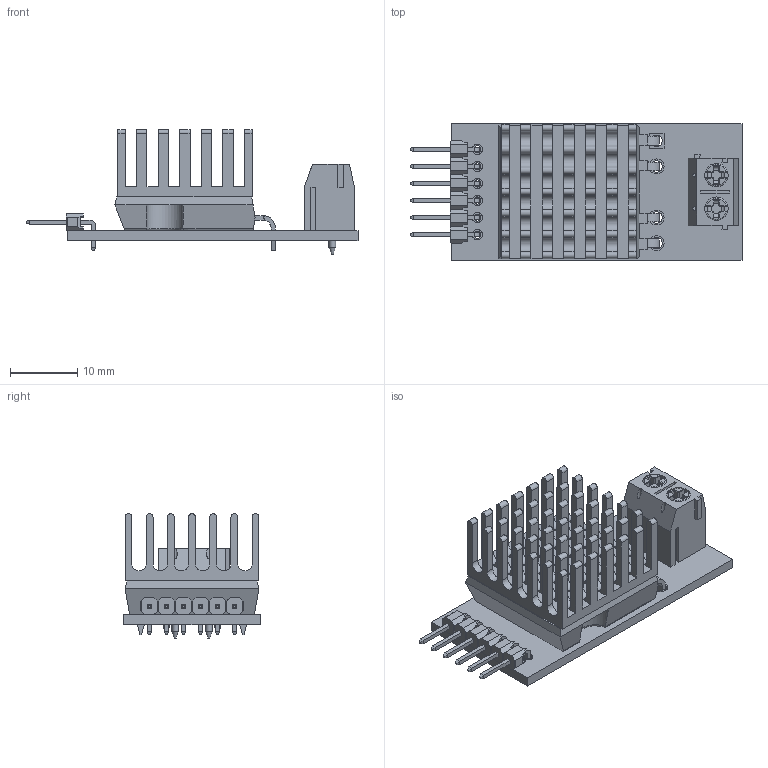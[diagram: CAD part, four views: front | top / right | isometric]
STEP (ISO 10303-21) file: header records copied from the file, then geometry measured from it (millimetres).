
FILE_DESCRIPTION(/* description */ ('Alibre Inc.'),/* implementation_level */ '2;1');
FILE_NAME(/* name */ 'export1',/* time_stamp */ '2017-11-17T14:14:20-08:00',/* author */ (''),/* organization */ (''),/* preprocessor_version */ 'ST-DEVELOPER v14',/* originating_system */ 'Alibre',/* authorisation */ '');
FILE_SCHEMA (('AUTOMOTIVE_DESIGN'));
Length unit declared in the file: centimetre
Bounding box: 49.39 x 20.32 x 18.54 mm (x, y, z)
Volume: 5009 mm3; surface area: 7849.5 mm2
Topology: 11 solids, 11 shells, 960 faces, 2467 edges, 1572 vertices
Faces by surface type: plane 690, cylinder 242, torus 16, cone 8, bspline 4
Full cylindrical faces by diameter (mm): 0.6 x2, 1 x2, 1.067 x6, 1.5 x12, 1.7 x6, 2 x2, 2.2 x6, 2.3 x2, 2.5 x4, 2.75 x2, 3 x3, 3.5 x4
Entity records: 24355 total; most frequent: CARTESIAN_POINT 4831, ORIENTED_EDGE 4246, DIRECTION 3045, EDGE_CURVE 2123, VERTEX_POINT 1377, VECTOR 1350, LINE 1350, AXIS2_PLACEMENT_3D 1070
